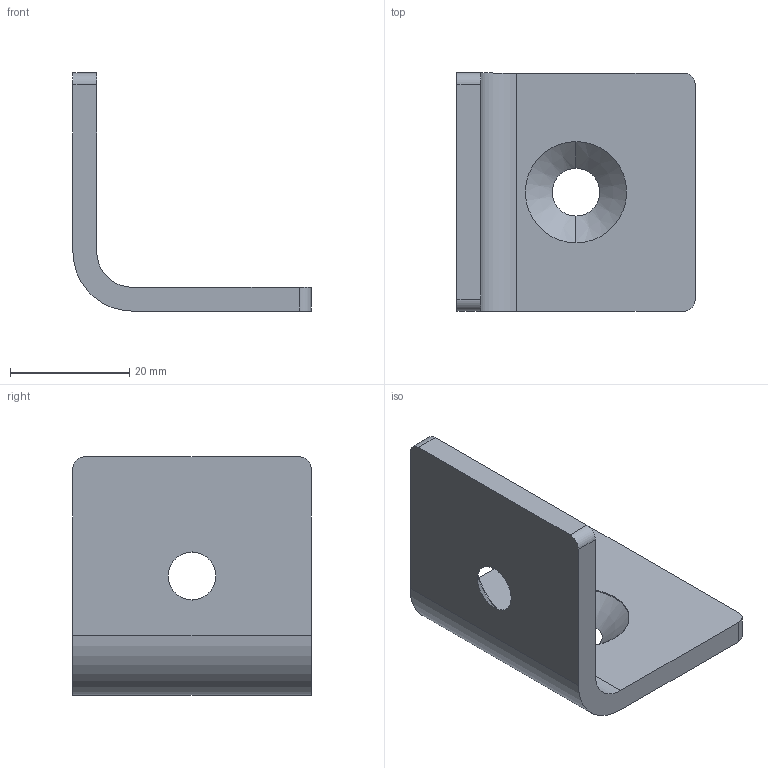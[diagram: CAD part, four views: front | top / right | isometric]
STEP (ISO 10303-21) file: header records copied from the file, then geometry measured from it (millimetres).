
FILE_DESCRIPTION (( 'STEP AP214' ), '1' );
FILE_NAME ('Transept Giltec-W840.STEP', '2015-03-09T08:51:52', ( 'Windows User' ), ( '' ), 'SwSTEP 2.0', 'SolidWorks 2015', '' );
FILE_SCHEMA (( 'AUTOMOTIVE_DESIGN' ));
Length unit declared in the file: millimetre
Products named in the file (1): Transept Giltec-W840
Bounding box: 40 x 40 x 40 mm (x, y, z)
Volume: 10533.1 mm3; surface area: 6614.7 mm2
Topology: 1 solids, 1 shells, 22 faces, 56 edges, 36 vertices
Faces by surface type: cylinder 10, plane 8, cone 4
Entity records: 713 total; most frequent: DIRECTION 125, CARTESIAN_POINT 116, ORIENTED_EDGE 112, EDGE_CURVE 56, AXIS2_PLACEMENT_3D 47, VERTEX_POINT 36, LINE 31, VECTOR 31
